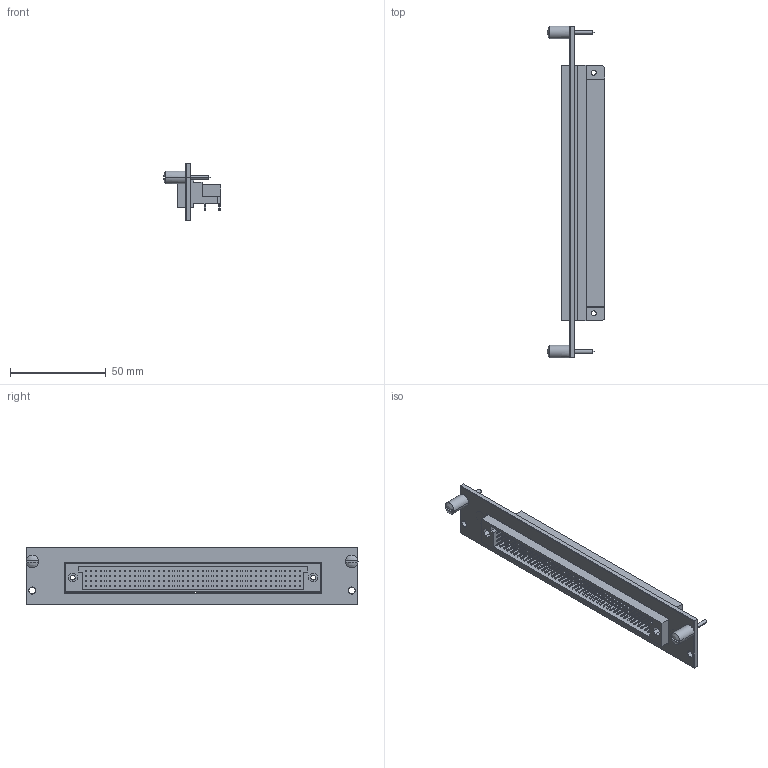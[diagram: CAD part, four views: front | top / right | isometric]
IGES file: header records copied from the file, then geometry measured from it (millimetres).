
Start section:  PTC IGES file: cu_scxi-1129.igs
Global section: file name: cu_scxi-1129.igs; native system: Pro/ENGINEER by Parametric Technology Corporation; preprocessor: 2006080; author: jjorden; organization: Unknown; date: 091204.151623; units: inch
Bounding box: 29.98 x 173.51 x 30.18 mm (x, y, z)
Surface area: 24540.3 mm2 (no closed solid volume)
Topology: 0 solids, 0 shells, 1041 faces, 5036 edges, 5028 vertices
Faces by surface type: bspline 981, revolution 60
